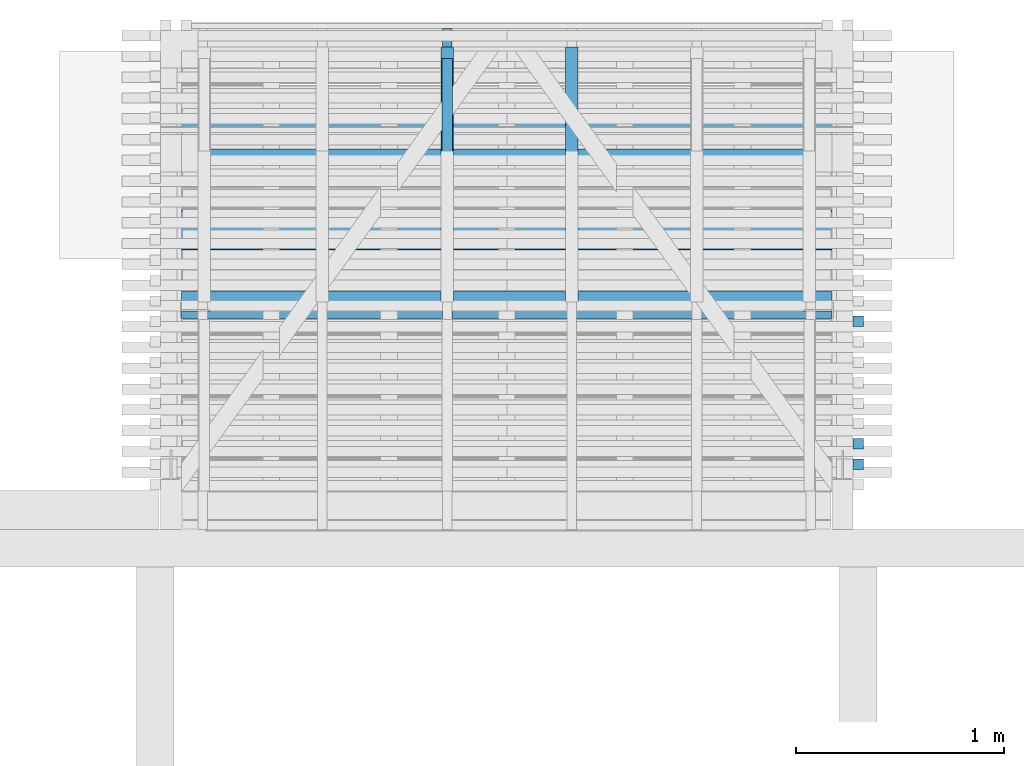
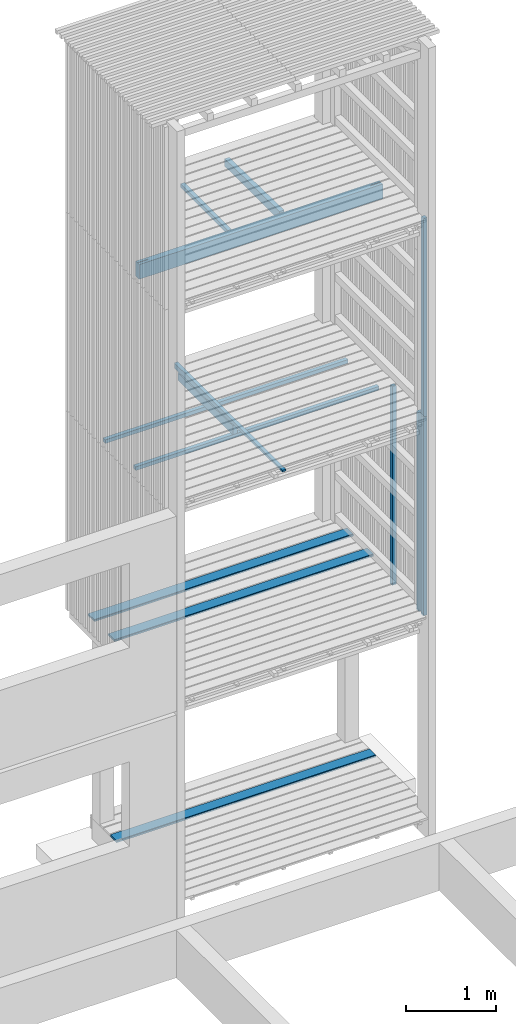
# One storey, part 71 of 182: 14 beams.
"""IFC2X3 building model written with IfcOpenShell, lengths in metres."""

from ifc_helpers import new_model, si_unit, frame, origin, place, context, project, spatial, faceted_brep, element, save


model = new_model("IFC2X3")

# Units and contexts
model_context = context("Model", 3, precision=1e-06, world=origin())
ifc_project = project(units=[si_unit("LENGTHUNIT", "METRE"), si_unit("PLANEANGLEUNIT", "RADIAN")], contexts=[model_context])

# Site, building, storey
site = spatial("IfcSite", under=ifc_project, CompositionType="ELEMENT")
building = spatial("IfcBuilding", under=site, CompositionType="ELEMENT")
storey = spatial("IfcBuildingStorey", under=building, Name="vs", CompositionType="ELEMENT", Elevation=-0.85)

# Beams
placement = place(None, origin())
beam_1_placement = place(placement, frame((24.422999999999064, 11.565077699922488, 5.304249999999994), z_axis=(0.0, 0.0, 1.0), x_axis=(1.2e-14, 1.0, 0.0)))
element("IfcBeam", 1, at=beam_1_placement, inside=storey, Name="Solive", context=model_context, shape_type="Brep", body=[
    faceted_brep([(0.0, -0.030000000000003, -0.061849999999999), (1.225000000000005, -0.029999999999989, -0.061849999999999), (1.225000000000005, -0.029999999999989, 0.03735), (0.0, -0.030000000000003, 0.06185), (-1e-15, 0.029999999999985, -0.061849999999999), (1.225000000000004, 0.029999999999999, -0.061849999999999), (1.225000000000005, -0.029999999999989, -0.061849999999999), (0.0, -0.030000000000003, -0.061849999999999), (-1e-15, 0.029999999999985, 0.061850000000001), (-1e-15, 0.029999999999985, -0.061849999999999), (0.0, -0.030000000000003, -0.061849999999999), (0.0, -0.030000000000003, 0.06185), (1.225000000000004, 0.029999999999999, -0.061849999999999), (-1e-15, 0.029999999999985, -0.061849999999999), (-1e-15, 0.029999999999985, 0.061850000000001), (1.225000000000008, 0.029999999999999, 0.03735), (1.225000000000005, -0.029999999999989, 0.03735), (1.225000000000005, -0.029999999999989, -0.061849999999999), (1.225000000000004, 0.029999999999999, -0.061849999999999), (1.225000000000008, 0.029999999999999, 0.03735), (0.0, -0.030000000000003, 0.06185), (1.225000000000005, -0.029999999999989, 0.03735), (1.225000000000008, 0.029999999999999, 0.03735), (-1e-15, 0.029999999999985, 0.061850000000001)], [[[0, 1, 2, 3]], [[4, 5, 6, 7]], [[8, 9, 10, 11]], [[12, 13, 14, 15]], [[16, 17, 18, 19]], [[20, 21, 22, 23]]]),
])
beam_2_placement = place(placement, frame((26.374999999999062, 11.884577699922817, 0.033500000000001), z_axis=(0.0, 0.0, 1.0), x_axis=(-1.0, -1e-15, 0.0)))
element("IfcBeam", 2, at=beam_2_placement, inside=storey, Name="Caillebotis", context=model_context, shape_type="Brep", body=[
    faceted_brep([(3.329999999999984, -0.067500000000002, 0.0135), (3.329999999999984, -0.072500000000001, 0.008500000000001), (3.329999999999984, -0.072500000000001, -0.013500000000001), (3.329999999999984, 0.072499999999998, -0.013500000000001), (3.329999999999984, 0.072499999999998, 0.0085), (3.329999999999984, 0.067499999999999, 0.0135), (0.0, 0.0675, 0.0135), (0.0, 0.072500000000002, 0.0085), (0.0, 0.072500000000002, -0.013500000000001), (0.0, -0.072500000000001, -0.013500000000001), (0.0, -0.072500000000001, 0.008500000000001), (0.0, -0.067499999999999, 0.0135), (3.329999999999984, -0.072500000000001, -0.013500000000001), (3.329999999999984, -0.072500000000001, 0.008500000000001), (0.0, -0.072500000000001, 0.008500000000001), (0.0, -0.072500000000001, -0.013500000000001), (3.329999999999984, 0.072499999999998, -0.013500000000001), (3.329999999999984, -0.072500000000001, -0.013500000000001), (0.0, -0.072500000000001, -0.013500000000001), (0.0, 0.072500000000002, -0.013500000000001), (3.329999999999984, 0.072499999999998, 0.0085), (3.329999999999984, 0.072499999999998, -0.013500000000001), (0.0, 0.072500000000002, -0.013500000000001), (0.0, 0.072500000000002, 0.0085), (3.329999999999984, 0.067499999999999, 0.0135), (3.329999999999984, 0.072499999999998, 0.0085), (0.0, 0.072500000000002, 0.0085), (0.0, 0.0675, 0.0135), (3.329999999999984, -0.067500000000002, 0.0135), (3.329999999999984, 0.067499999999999, 0.0135), (0.0, 0.0675, 0.0135), (0.0, -0.067499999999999, 0.0135), (0.0, -0.072500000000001, 0.008500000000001), (3.329999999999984, -0.072500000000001, 0.008500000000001), (3.329999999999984, -0.067500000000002, 0.0135), (0.0, -0.067499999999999, 0.0135)], [[[0, 1, 2, 3, 4, 5]], [[6, 7, 8, 9, 10, 11]], [[12, 13, 14, 15]], [[16, 17, 18, 19]], [[20, 21, 22, 23]], [[24, 25, 26, 27]], [[28, 29, 30, 31]], [[32, 33, 34, 35]]]),
])
beam_3_placement = place(placement, frame((24.422999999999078, 10.470077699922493, 5.384400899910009), z_axis=(0.0, 0.0, 1.0), x_axis=(0.0, 1.0, 0.0)))
element("IfcBeam", 3, at=beam_3_placement, inside=storey, Name="Calage", context=model_context, shape_type="Brep", body=[
    faceted_brep([(2.410000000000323, -0.022499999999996, -0.035599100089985), (0.0, -0.022499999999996, 0.012600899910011), (0.0, 0.022500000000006, 0.012600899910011), (2.410000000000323, 0.022500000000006, -0.035599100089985), (0.0, 0.022500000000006, 0.035599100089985), (0.0, 0.022500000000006, 0.012600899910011), (0.0, -0.022499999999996, 0.012600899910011), (0.0, -0.022499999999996, 0.035599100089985), (2.410000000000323, 0.022500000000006, -0.035599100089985), (0.0, 0.022500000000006, 0.012600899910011), (0.0, 0.022500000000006, 0.035599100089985), (2.410000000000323, 0.022500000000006, 0.035599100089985), (2.410000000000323, -0.022499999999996, 0.035599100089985), (0.0, -0.022499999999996, 0.035599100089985), (0.0, -0.022499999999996, 0.012600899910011), (2.410000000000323, -0.022499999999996, -0.035599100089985), (2.410000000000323, 0.022500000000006, 0.035599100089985), (0.0, 0.022500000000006, 0.035599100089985), (0.0, -0.022499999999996, 0.035599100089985), (2.410000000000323, -0.022499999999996, 0.035599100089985), (2.410000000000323, 0.022500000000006, -0.035599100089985), (2.410000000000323, 0.022500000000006, 0.035599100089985), (2.410000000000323, -0.022499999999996, 0.035599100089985), (2.410000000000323, -0.022499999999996, -0.035599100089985)], [[[0, 1, 2, 3]], [[4, 5, 6, 7]], [[8, 9, 10, 11]], [[12, 13, 14, 15]], [[16, 17, 18, 19]], [[20, 21, 22, 23]]]),
])
beam_4_placement = place(placement, frame((23.144999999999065, 11.590077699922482, 5.217399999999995), z_axis=(0.0, 0.0, 1.0), x_axis=(1.0, 0.0, 0.0)))
element("IfcBeam", 4, at=beam_4_placement, inside=storey, Name="Ligneul", context=model_context, shape_type="Brep", body=[
    faceted_brep([(4e-15, -0.024999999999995, 0.024999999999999), (4e-15, -0.024999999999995, -0.025), (3.129999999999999, -0.024999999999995, -0.025), (3.129999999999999, -0.024999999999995, 0.024999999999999), (4e-15, 0.025000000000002, 0.024999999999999), (4e-15, -0.024999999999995, 0.024999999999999), (3.129999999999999, -0.024999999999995, 0.024999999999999), (3.129999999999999, 0.025000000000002, 0.024999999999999), (4e-15, -0.024999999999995, 0.024999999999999), (4e-15, 0.025000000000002, 0.024999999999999), (4e-15, 0.025000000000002, -0.025), (4e-15, -0.024999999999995, -0.025), (4e-15, 0.025000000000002, -0.025), (4e-15, 0.025000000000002, 0.024999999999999), (3.129999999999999, 0.025000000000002, 0.024999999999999), (3.129999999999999, 0.025000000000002, -0.025), (3.129999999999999, -0.024999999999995, -0.025), (4e-15, -0.024999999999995, -0.025), (4e-15, 0.025000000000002, -0.025), (3.129999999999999, 0.025000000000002, -0.025), (3.129999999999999, -0.024999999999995, 0.024999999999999), (3.129999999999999, -0.024999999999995, -0.025), (3.129999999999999, 0.025000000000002, -0.025), (3.129999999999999, 0.025000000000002, 0.024999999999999)], [[[0, 1, 2, 3]], [[4, 5, 6, 7]], [[8, 9, 10, 11]], [[12, 13, 14, 15]], [[16, 17, 18, 19]], [[20, 21, 22, 23]]]),
])
beam_5_placement = place(placement, frame((26.374999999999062, 12.384577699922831, 2.733499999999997), z_axis=(0.0, 0.0, 1.0), x_axis=(-1.0, -1e-14, 0.0)))
element("IfcBeam", 5, at=beam_5_placement, inside=storey, Name="Caillebotis", context=model_context, shape_type="Brep", body=[
    faceted_brep([(3.329999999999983, -0.072500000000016, -0.0135), (3.329999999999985, 0.072499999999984, -0.0135), (3.329999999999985, 0.072499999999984, 0.0085), (3.329999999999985, 0.067499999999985, 0.0135), (3.329999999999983, -0.067500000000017, 0.0135), (3.329999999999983, -0.072500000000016, 0.008500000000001), (-1.5e-14, -0.072499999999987, 0.008500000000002), (-1.5e-14, -0.067499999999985, 0.0135), (-1.4e-14, 0.067500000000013, 0.0135), (-1.4e-14, 0.072500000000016, 0.0085), (-1.4e-14, 0.072500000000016, -0.0135), (-1.5e-14, -0.072499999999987, -0.0135), (3.329999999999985, 0.072499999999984, 0.0085), (3.329999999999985, 0.072499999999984, -0.0135), (-1.4e-14, 0.072500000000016, -0.0135), (-1.4e-14, 0.072500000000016, 0.0085), (3.329999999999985, 0.067499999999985, 0.0135), (3.329999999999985, 0.072499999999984, 0.0085), (-1.4e-14, 0.072500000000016, 0.0085), (-1.4e-14, 0.067500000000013, 0.0135), (3.329999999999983, -0.067500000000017, 0.0135), (3.329999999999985, 0.067499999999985, 0.0135), (-1.4e-14, 0.067500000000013, 0.0135), (-1.5e-14, -0.067499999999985, 0.0135), (3.329999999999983, -0.072500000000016, 0.008500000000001), (3.329999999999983, -0.067500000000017, 0.0135), (-1.5e-14, -0.067499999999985, 0.0135), (-1.5e-14, -0.072499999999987, 0.008500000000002), (3.329999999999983, -0.072500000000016, -0.0135), (3.329999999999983, -0.072500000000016, 0.008500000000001), (-1.5e-14, -0.072499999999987, 0.008500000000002), (-1.5e-14, -0.072499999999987, -0.0135), (-1.4e-14, 0.072500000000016, -0.0135), (3.329999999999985, 0.072499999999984, -0.0135), (3.329999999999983, -0.072500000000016, -0.0135), (-1.5e-14, -0.072499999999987, -0.0135)], [[[0, 1, 2, 3, 4, 5]], [[6, 7, 8, 9, 10, 11]], [[12, 13, 14, 15]], [[16, 17, 18, 19]], [[20, 21, 22, 23]], [[24, 25, 26, 27]], [[28, 29, 30, 31]], [[32, 33, 34, 35]]]),
])
beam_6_placement = place(placement, frame((26.269999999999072, 12.274661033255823, 5.167399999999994), z_axis=(0.0, 0.0, 1.0), x_axis=(-1.0, 0.0, 0.0)))
element("IfcBeam", 6, at=beam_6_placement, inside=storey, Name="Bardage", context=model_context, shape_type="Brep", body=[
    faceted_brep([(3.120000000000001, 0.024999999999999, 0.024999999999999), (3.120000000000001, -0.024999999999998, 0.024999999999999), (3.120000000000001, -0.024999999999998, -0.024999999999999), (3.120000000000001, 0.024999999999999, -0.024999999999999), (-3e-15, -0.025000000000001, 0.024999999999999), (-3e-15, 0.024999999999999, 0.024999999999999), (-3e-15, 0.024999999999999, -0.024999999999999), (-3e-15, -0.025000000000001, -0.024999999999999), (3.120000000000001, 0.024999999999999, -0.024999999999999), (3.120000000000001, -0.024999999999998, -0.024999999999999), (-3e-15, -0.025000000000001, -0.024999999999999), (-3e-15, 0.024999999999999, -0.024999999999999), (-3e-15, -0.025000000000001, -0.024999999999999), (3.120000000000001, -0.024999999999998, -0.024999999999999), (3.120000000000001, -0.024999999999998, 0.024999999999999), (-3e-15, -0.025000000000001, 0.024999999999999), (-3e-15, -0.025000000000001, 0.024999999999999), (3.120000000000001, -0.024999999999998, 0.024999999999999), (3.120000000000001, 0.024999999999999, 0.024999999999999), (-3e-15, 0.024999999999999, 0.024999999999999), (-3e-15, 0.024999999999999, 0.024999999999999), (3.120000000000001, 0.024999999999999, 0.024999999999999), (3.120000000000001, 0.024999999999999, -0.024999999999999), (-3e-15, 0.024999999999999, -0.024999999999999)], [[[0, 1, 2, 3]], [[4, 5, 6, 7]], [[8, 9, 10, 11]], [[12, 13, 14, 15]], [[16, 17, 18, 19]], [[20, 21, 22, 23]]]),
])
beam_7_placement = place(placement, frame((25.022999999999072, 11.565077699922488, 8.00424999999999), z_axis=(0.0, 0.0, 1.0), x_axis=(0.0, 1.0, 0.0)))
element("IfcBeam", 7, at=beam_7_placement, inside=storey, Name="Solive", context=model_context, shape_type="Brep", body=[
    faceted_brep([(0.0, -0.030000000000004, -0.061849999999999), (1.225000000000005, -0.030000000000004, -0.061849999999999), (1.225000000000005, -0.030000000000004, 0.037349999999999), (0.0, -0.030000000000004, 0.061849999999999), (0.0, 0.029999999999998, 0.061850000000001), (0.0, 0.029999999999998, -0.061849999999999), (0.0, -0.030000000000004, -0.061849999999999), (0.0, -0.030000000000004, 0.061849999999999), (0.0, -0.030000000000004, -0.061849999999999), (0.0, 0.029999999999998, -0.061849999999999), (1.225000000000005, 0.029999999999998, -0.061849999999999), (1.225000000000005, -0.030000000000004, -0.061849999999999), (1.225000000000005, 0.029999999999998, -0.061849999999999), (0.0, 0.029999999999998, -0.061849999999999), (0.0, 0.029999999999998, 0.061850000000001), (1.225000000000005, 0.029999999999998, 0.037349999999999), (1.225000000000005, -0.030000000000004, 0.037349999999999), (1.225000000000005, -0.030000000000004, -0.061849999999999), (1.225000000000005, 0.029999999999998, -0.061849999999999), (1.225000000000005, 0.029999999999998, 0.037349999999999), (0.0, -0.030000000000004, 0.061849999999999), (1.225000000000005, -0.030000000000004, 0.037349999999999), (1.225000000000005, 0.029999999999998, 0.037349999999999), (0.0, 0.029999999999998, 0.061850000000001)], [[[0, 1, 2, 3]], [[4, 5, 6, 7]], [[8, 9, 10, 11]], [[12, 13, 14, 15]], [[16, 17, 18, 19]], [[20, 21, 22, 23]]]),
])
beam_8_placement = place(placement, frame((26.274999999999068, 11.525077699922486, 7.93999999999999), z_axis=(0.0, 0.0, 1.0), x_axis=(-1.0, 0.0, 0.0)))
element("IfcBeam", 8, at=beam_8_placement, inside=storey, Name="Sommier", context=model_context, shape_type="Brep", body=[
    faceted_brep([(0.137000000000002, -0.004000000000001, -0.100000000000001), (1e-15, -0.004000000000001, -0.100000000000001), (1e-15, -0.004000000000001, 0.1), (0.137000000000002, -0.004000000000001, 0.1), (0.137000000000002, 0.003999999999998, -0.100000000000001), (0.137000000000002, -0.004000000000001, -0.100000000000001), (0.137000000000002, -0.004000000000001, 0.1), (0.137000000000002, 0.003999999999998, 0.1), (1e-15, 0.003999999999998, -0.100000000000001), (0.137000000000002, 0.003999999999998, -0.100000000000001), (0.137000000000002, 0.003999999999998, 0.1), (1e-15, 0.003999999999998, 0.1), (1e-15, -0.004000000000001, 0.1), (1e-15, -0.004000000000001, -0.100000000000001), (1e-15, -0.040000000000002, -0.100000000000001), (1e-15, -0.040000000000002, 0.1), (1e-15, 0.04, 0.1), (1e-15, 0.04, -0.100000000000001), (1e-15, 0.003999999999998, -0.100000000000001), (1e-15, 0.003999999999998, 0.1), (2.992999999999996, 0.004000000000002, 0.1), (2.992999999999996, 0.004000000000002, -0.100000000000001), (3.129999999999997, 0.004000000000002, -0.100000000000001), (3.129999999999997, 0.004000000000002, 0.1), (2.992999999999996, -0.004000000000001, 0.1), (2.992999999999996, -0.004000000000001, -0.100000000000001), (2.992999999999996, 0.004000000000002, -0.100000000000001), (2.992999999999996, 0.004000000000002, 0.1), (3.129999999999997, -0.004000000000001, 0.1), (3.129999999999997, -0.004000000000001, -0.100000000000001), (2.992999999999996, -0.004000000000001, -0.100000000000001), (2.992999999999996, -0.004000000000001, 0.1), (3.129999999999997, 0.004000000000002, 0.1), (3.129999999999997, 0.004000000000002, -0.100000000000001), (3.129999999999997, 0.040000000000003, -0.100000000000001), (3.129999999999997, 0.040000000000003, 0.1), (3.129999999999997, -0.040000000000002, 0.1), (3.129999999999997, -0.040000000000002, -0.100000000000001), (3.129999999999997, -0.004000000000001, -0.100000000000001), (3.129999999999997, -0.004000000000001, 0.1), (2.992999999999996, 0.004000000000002, 0.1), (3.129999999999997, 0.004000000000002, 0.1), (3.129999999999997, 0.040000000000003, 0.1), (1e-15, 0.04, 0.1), (1e-15, 0.003999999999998, 0.1), (0.137000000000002, 0.003999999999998, 0.1), (0.137000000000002, -0.004000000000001, 0.1), (1e-15, -0.004000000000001, 0.1), (1e-15, -0.040000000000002, 0.1), (3.129999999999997, -0.040000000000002, 0.1), (3.129999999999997, -0.004000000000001, 0.1), (2.992999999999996, -0.004000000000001, 0.1), (1e-15, -0.040000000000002, -0.100000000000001), (1e-15, -0.004000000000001, -0.100000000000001), (0.137000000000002, -0.004000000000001, -0.100000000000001), (0.137000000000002, 0.003999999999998, -0.100000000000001), (1e-15, 0.003999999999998, -0.100000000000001), (1e-15, 0.04, -0.100000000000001), (3.129999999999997, 0.040000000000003, -0.100000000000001), (3.129999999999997, 0.004000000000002, -0.100000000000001), (2.992999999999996, 0.004000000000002, -0.100000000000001), (2.992999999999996, -0.004000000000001, -0.100000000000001), (3.129999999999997, -0.004000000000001, -0.100000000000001), (3.129999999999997, -0.040000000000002, -0.100000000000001), (1e-15, -0.040000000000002, -0.100000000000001), (3.129999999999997, -0.040000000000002, -0.100000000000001), (3.129999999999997, -0.040000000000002, 0.1), (1e-15, -0.040000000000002, 0.1), (1e-15, 0.04, 0.1), (3.129999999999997, 0.040000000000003, 0.1), (3.129999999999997, 0.040000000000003, -0.100000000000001), (1e-15, 0.04, -0.100000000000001)], [[[0, 1, 2, 3]], [[4, 5, 6, 7]], [[8, 9, 10, 11]], [[12, 13, 14, 15]], [[16, 17, 18, 19]], [[20, 21, 22, 23]], [[24, 25, 26, 27]], [[28, 29, 30, 31]], [[32, 33, 34, 35]], [[36, 37, 38, 39]], [[40, 41, 42, 43, 44, 45, 46, 47, 48, 49, 50, 51]], [[52, 53, 54, 55, 56, 57, 58, 59, 60, 61, 62, 63]], [[64, 65, 66, 67]], [[68, 69, 70, 71]]]),
])
beam_9_placement = place(placement, frame((26.374999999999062, 11.934577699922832, 2.733499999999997), z_axis=(0.0, 0.0, 1.0), x_axis=(-1.0, -8e-15, 0.0)))
element("IfcBeam", 9, at=beam_9_placement, inside=storey, Name="Caillebotis", context=model_context, shape_type="Brep", body=[
    faceted_brep([(3.329999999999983, -0.072500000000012, -0.0135), (3.329999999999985, 0.072499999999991, -0.0135), (3.329999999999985, 0.072499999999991, 0.0085), (3.329999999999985, 0.067499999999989, 0.0135), (3.329999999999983, -0.067500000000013, 0.0135), (3.329999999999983, -0.072500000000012, 0.008500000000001), (-1.5e-14, -0.072499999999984, 0.008500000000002), (-1.5e-14, -0.067499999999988, 0.0135), (-1.4e-14, 0.067500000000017, 0.0135), (-1.4e-14, 0.072500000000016, 0.0085), (-1.4e-14, 0.072500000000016, -0.0135), (-1.5e-14, -0.072499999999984, -0.0135), (3.329999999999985, 0.072499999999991, 0.0085), (3.329999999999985, 0.072499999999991, -0.0135), (-1.4e-14, 0.072500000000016, -0.0135), (-1.4e-14, 0.072500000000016, 0.0085), (3.329999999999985, 0.067499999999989, 0.0135), (3.329999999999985, 0.072499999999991, 0.0085), (-1.4e-14, 0.072500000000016, 0.0085), (-1.4e-14, 0.067500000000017, 0.0135), (3.329999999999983, -0.067500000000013, 0.0135), (3.329999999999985, 0.067499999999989, 0.0135), (-1.4e-14, 0.067500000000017, 0.0135), (-1.5e-14, -0.067499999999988, 0.0135), (3.329999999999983, -0.072500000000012, 0.008500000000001), (3.329999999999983, -0.067500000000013, 0.0135), (-1.5e-14, -0.067499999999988, 0.0135), (-1.5e-14, -0.072499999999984, 0.008500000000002), (3.329999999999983, -0.072500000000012, -0.0135), (3.329999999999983, -0.072500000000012, 0.008500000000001), (-1.5e-14, -0.072499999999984, 0.008500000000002), (-1.5e-14, -0.072499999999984, -0.0135), (-1.4e-14, 0.072500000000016, -0.0135), (3.329999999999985, 0.072499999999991, -0.0135), (3.329999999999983, -0.072500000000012, -0.0135), (-1.5e-14, -0.072499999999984, -0.0135)], [[[0, 1, 2, 3, 4, 5]], [[6, 7, 8, 9, 10, 11]], [[12, 13, 14, 15]], [[16, 17, 18, 19]], [[20, 21, 22, 23]], [[24, 25, 26, 27]], [[28, 29, 30, 31]], [[32, 33, 34, 35]]]),
])
beam_10_placement = place(placement, frame((24.422999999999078, 12.735077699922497, 7.91739999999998), z_axis=(0.0, 0.0, 1.0), x_axis=(0.0, -1.0, 0.0)))
element("IfcBeam", 10, at=beam_10_placement, inside=storey, Name="Calage", context=model_context, shape_type="Brep", body=[
    faceted_brep([(1.115000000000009, 0.024999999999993, 0.024999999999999), (1.115000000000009, -0.025000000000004, 0.024999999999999), (1.115000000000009, -0.025000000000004, -0.025), (1.115000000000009, 0.024999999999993, -0.025), (0.0, -0.025000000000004, -0.025), (0.0, -0.025000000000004, 0.024999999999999), (0.0, 0.024999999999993, 0.024999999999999), (0.0, 0.024999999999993, -0.025), (1.115000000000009, -0.025000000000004, 0.024999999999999), (1.115000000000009, 0.024999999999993, 0.024999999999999), (0.0, 0.024999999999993, 0.024999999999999), (0.0, -0.025000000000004, 0.024999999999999), (1.115000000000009, -0.025000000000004, -0.025), (1.115000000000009, -0.025000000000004, 0.024999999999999), (0.0, -0.025000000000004, 0.024999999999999), (0.0, -0.025000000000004, -0.025), (1.115000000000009, 0.024999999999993, -0.025), (1.115000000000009, -0.025000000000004, -0.025), (0.0, -0.025000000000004, -0.025), (0.0, 0.024999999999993, -0.025), (0.0, 0.024999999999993, 0.024999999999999), (1.115000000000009, 0.024999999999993, 0.024999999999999), (1.115000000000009, 0.024999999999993, -0.025), (0.0, 0.024999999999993, -0.025)], [[[0, 1, 2, 3]], [[4, 5, 6, 7]], [[8, 9, 10, 11]], [[12, 13, 14, 15]], [[16, 17, 18, 19]], [[20, 21, 22, 23]]]),
])
beam_11_placement = place(placement, frame((26.399999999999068, 10.881441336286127, 2.575000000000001), z_axis=(-1.0, 0.0, 0.0), x_axis=(0.0, 0.0, 1.0)))
element("IfcBeam", 11, at=beam_11_placement, inside=storey, Name="Bardage", context=model_context, shape_type="Brep", body=[
    faceted_brep([(0.0, -0.024999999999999, 0.024999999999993), (0.0, 0.025000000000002, 0.024999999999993), (0.0, 0.025000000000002, -0.025000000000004), (0.0, -0.024999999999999, -0.025000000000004), (2.699961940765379, 0.025000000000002, -0.025000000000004), (2.699961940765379, 0.025000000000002, 0.024999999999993), (2.699961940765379, -0.024999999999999, 0.024999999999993), (2.699961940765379, -0.024999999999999, -0.025000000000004), (0.0, -0.024999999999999, -0.025000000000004), (0.0, 0.025000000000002, -0.025000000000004), (2.699961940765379, 0.025000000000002, -0.025000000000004), (2.699961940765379, -0.024999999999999, -0.025000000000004), (2.699961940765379, 0.025000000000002, -0.025000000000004), (0.0, 0.025000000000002, -0.025000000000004), (0.0, 0.025000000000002, 0.024999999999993), (2.699961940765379, 0.025000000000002, 0.024999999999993), (2.699961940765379, 0.025000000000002, 0.024999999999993), (0.0, 0.025000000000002, 0.024999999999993), (0.0, -0.024999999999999, 0.024999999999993), (2.699961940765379, -0.024999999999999, 0.024999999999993), (2.699961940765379, -0.024999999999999, 0.024999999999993), (0.0, -0.024999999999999, 0.024999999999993), (0.0, -0.024999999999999, -0.025000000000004), (2.699961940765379, -0.024999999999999, -0.025000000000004)], [[[0, 1, 2, 3]], [[4, 5, 6, 7]], [[8, 9, 10, 11]], [[12, 13, 14, 15]], [[16, 17, 18, 19]], [[20, 21, 22, 23]]]),
])
beam_12_placement = place(placement, frame((26.399999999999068, 10.783259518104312, 5.274999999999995), z_axis=(-1.0, 0.0, 0.0), x_axis=(0.0, 0.0, 1.0)))
element("IfcBeam", 12, at=beam_12_placement, inside=storey, Name="Bardage", context=model_context, shape_type="Brep", body=[
    faceted_brep([(1e-15, -0.025000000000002, 0.024999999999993), (1e-15, 0.024999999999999, 0.024999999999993), (1e-15, 0.024999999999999, -0.025000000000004), (1e-15, -0.025000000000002, -0.025000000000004), (2.699999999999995, -0.025000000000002, -0.025000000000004), (2.699999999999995, 0.024999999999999, -0.025000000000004), (2.699999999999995, 0.024999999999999, 0.024999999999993), (2.699999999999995, -0.025000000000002, 0.024999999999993), (1e-15, -0.025000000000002, 0.024999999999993), (1e-15, -0.025000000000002, -0.025000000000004), (2.699999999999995, -0.025000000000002, -0.025000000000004), (2.699999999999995, -0.025000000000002, 0.024999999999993), (2.699999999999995, -0.025000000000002, -0.025000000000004), (1e-15, -0.025000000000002, -0.025000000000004), (1e-15, 0.024999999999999, -0.025000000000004), (2.699999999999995, 0.024999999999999, -0.025000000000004), (2.699999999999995, 0.024999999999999, -0.025000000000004), (1e-15, 0.024999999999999, -0.025000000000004), (1e-15, 0.024999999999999, 0.024999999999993), (2.699999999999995, 0.024999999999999, 0.024999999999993), (2.699999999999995, 0.024999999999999, 0.024999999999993), (1e-15, 0.024999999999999, 0.024999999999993), (1e-15, -0.025000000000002, 0.024999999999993), (2.699999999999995, -0.025000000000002, 0.024999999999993)], [[[0, 1, 2, 3]], [[4, 5, 6, 7]], [[8, 9, 10, 11]], [[12, 13, 14, 15]], [[16, 17, 18, 19]], [[20, 21, 22, 23]]]),
])
beam_13_placement = place(placement, frame((26.399999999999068, 11.470532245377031, 2.575000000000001), z_axis=(-1.0, 0.0, 0.0), x_axis=(0.0, 0.0, 1.0)))
element("IfcBeam", 13, at=beam_13_placement, inside=storey, Name="Bardage", context=model_context, shape_type="Brep", body=[
    faceted_brep([(0.0, -0.025000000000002, 0.024999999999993), (0.0, 0.025000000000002, 0.024999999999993), (0.0, 0.025000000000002, -0.025000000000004), (0.0, -0.025000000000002, -0.025000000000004), (2.699961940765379, 0.025000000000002, -0.025000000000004), (2.699961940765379, 0.025000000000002, 0.024999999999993), (2.699961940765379, -0.025000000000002, 0.024999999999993), (2.699961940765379, -0.025000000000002, -0.025000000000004), (0.0, -0.025000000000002, -0.025000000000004), (0.0, 0.025000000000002, -0.025000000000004), (2.699961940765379, 0.025000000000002, -0.025000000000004), (2.699961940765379, -0.025000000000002, -0.025000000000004), (2.699961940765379, 0.025000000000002, -0.025000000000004), (0.0, 0.025000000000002, -0.025000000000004), (0.0, 0.025000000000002, 0.024999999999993), (2.699961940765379, 0.025000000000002, 0.024999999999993), (2.699961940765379, 0.025000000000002, 0.024999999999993), (0.0, 0.025000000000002, 0.024999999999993), (0.0, -0.025000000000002, 0.024999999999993), (2.699961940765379, -0.025000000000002, 0.024999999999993), (2.699961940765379, -0.025000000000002, 0.024999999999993), (0.0, -0.025000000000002, 0.024999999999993), (0.0, -0.025000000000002, -0.025000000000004), (2.699961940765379, -0.025000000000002, -0.025000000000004)], [[[0, 1, 2, 3]], [[4, 5, 6, 7]], [[8, 9, 10, 11]], [[12, 13, 14, 15]], [[16, 17, 18, 19]], [[20, 21, 22, 23]]]),
])
beam_14_placement = place(placement, frame((26.399999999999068, 10.783259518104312, 2.575000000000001), z_axis=(-1.0, 0.0, 0.0), x_axis=(0.0, 0.0, 1.0)))
element("IfcBeam", 14, at=beam_14_placement, inside=storey, Name="Bardage", context=model_context, shape_type="Brep", body=[
    faceted_brep([(0.0, -0.025000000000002, 0.024999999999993), (0.0, 0.024999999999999, 0.024999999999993), (0.0, 0.024999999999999, -0.025000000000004), (0.0, -0.025000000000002, -0.025000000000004), (2.699961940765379, 0.024999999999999, -0.025000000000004), (2.699961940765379, 0.024999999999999, 0.024999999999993), (2.699961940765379, -0.025000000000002, 0.024999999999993), (2.699961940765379, -0.025000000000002, -0.025000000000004), (0.0, -0.025000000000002, -0.025000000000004), (0.0, 0.024999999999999, -0.025000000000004), (2.699961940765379, 0.024999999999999, -0.025000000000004), (2.699961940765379, -0.025000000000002, -0.025000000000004), (2.699961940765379, 0.024999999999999, -0.025000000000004), (0.0, 0.024999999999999, -0.025000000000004), (0.0, 0.024999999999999, 0.024999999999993), (2.699961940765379, 0.024999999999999, 0.024999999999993), (2.699961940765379, 0.024999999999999, 0.024999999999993), (0.0, 0.024999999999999, 0.024999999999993), (0.0, -0.025000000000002, 0.024999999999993), (2.699961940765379, -0.025000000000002, 0.024999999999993), (2.699961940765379, -0.025000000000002, 0.024999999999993), (0.0, -0.025000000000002, 0.024999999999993), (0.0, -0.025000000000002, -0.025000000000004), (2.699961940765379, -0.025000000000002, -0.025000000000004)], [[[0, 1, 2, 3]], [[4, 5, 6, 7]], [[8, 9, 10, 11]], [[12, 13, 14, 15]], [[16, 17, 18, 19]], [[20, 21, 22, 23]]]),
])

save(model, "model.ifc")
